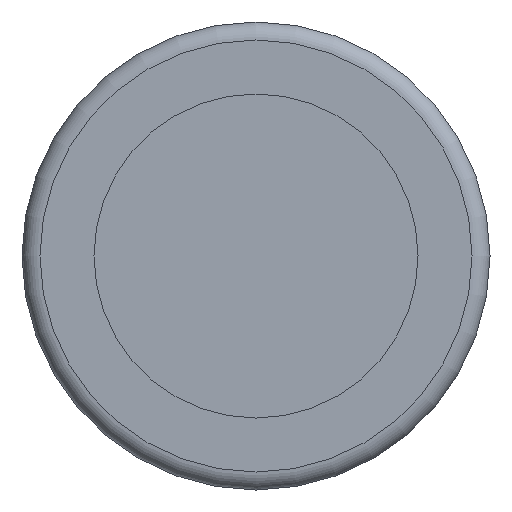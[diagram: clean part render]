
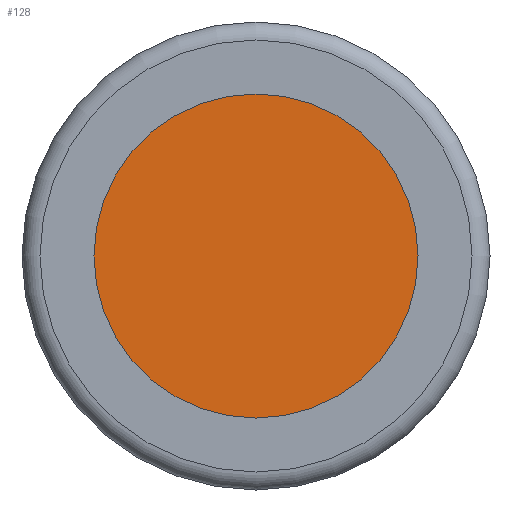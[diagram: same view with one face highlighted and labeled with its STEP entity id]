
A CAD part, left-side view. The second image highlights one B-rep face of the part: STEP entity #128.
In plain terms, the highlighted planar face has unit normal (-1, 0, 0).
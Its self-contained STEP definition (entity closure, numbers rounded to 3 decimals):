
#99=CARTESIAN_POINT('',(0.0,18.0,0.));
#100=VERTEX_POINT('',#99);
#101=CARTESIAN_POINT('',(0.0,0.0,0.0));
#102=DIRECTION('',(-1.0,0.0,0.0));
#103=DIRECTION('',(0.0,-1.0,0.0));
#104=AXIS2_PLACEMENT_3D('',#101,#102,#103);
#105=CIRCLE('',#104,18.0);
#106=EDGE_CURVE('',#100,#100,#105,.T.);
#120=CARTESIAN_POINT('',(0.0,0.0,0.0));
#121=DIRECTION('',(-1.0,0.0,0.0));
#122=DIRECTION('',(0.0,0.0,1.0));
#123=AXIS2_PLACEMENT_3D('',#120,#121,#122);
#124=PLANE('',#123);
#125=ORIENTED_EDGE('',*,*,#106,.T.);
#126=EDGE_LOOP('',(#125));
#127=FACE_OUTER_BOUND('',#126,.T.);
#128=ADVANCED_FACE('',(#127),#124,.T.);
